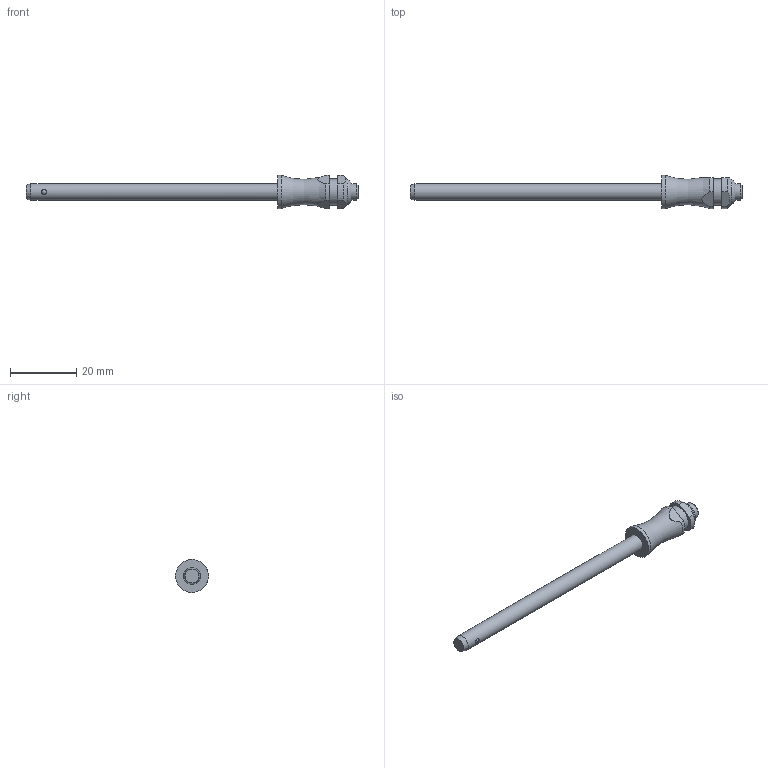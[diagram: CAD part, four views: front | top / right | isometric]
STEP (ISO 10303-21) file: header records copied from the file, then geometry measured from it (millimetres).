
FILE_DESCRIPTION( ( 'STEP AP203' ), '1' );
FILE_NAME( 'C:/Temp/Ganter_Step_05_03_2020/data/3_1/gn113_3/Stainless Steel-Ball lock pin GN 113.3-5-70 (activated).stp', '2020-03-12T08:18:14', ( 'License CC BY-ND 4.0' ), ( 'CADENAS' ), ' ', 'PARTsolutions', ' ' );
FILE_SCHEMA( ( 'CONFIG_CONTROL_DESIGN' ) );
Length unit declared in the file: millimetre
Products named in the file (1): _Stainless Steel-Ball lock pin GN 113.3-5-70 (activated)
Bounding box: 100.15 x 10 x 10 mm (x, y, z)
Volume: 2785.5 mm3; surface area: 1989.1 mm2
Topology: 1 solids, 1 shells, 31 faces, 73 edges, 46 vertices
Faces by surface type: plane 12, cylinder 12, cone 3, torus 2, sphere 2
Full cylindrical faces by diameter (mm): 1.5 x2, 5 x2, 7.9 x1, 10 x1
Entity records: 954 total; most frequent: CARTESIAN_POINT 290, DIRECTION 134, ORIENTED_EDGE 104, AXIS2_PLACEMENT_3D 58, EDGE_CURVE 52, EDGE_LOOP 48, VERTEX_POINT 40, FACE_OUTER_BOUND 39
